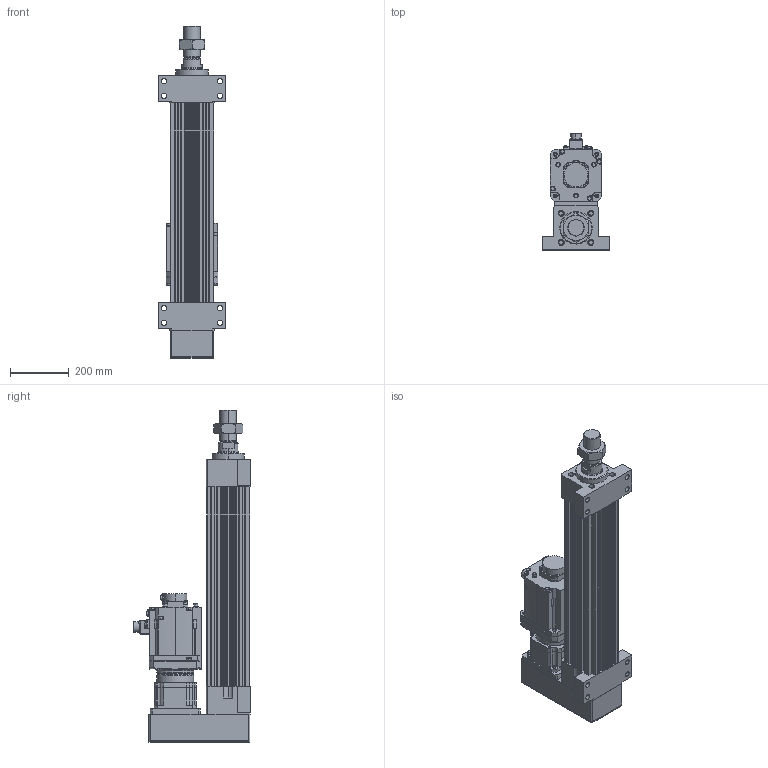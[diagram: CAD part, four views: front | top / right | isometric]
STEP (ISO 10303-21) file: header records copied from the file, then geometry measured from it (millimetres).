
FILE_DESCRIPTION (( 'STEP AP203' ), '1' );
FILE_NAME ('HES150NS(HS)-P400-W050G00-M-FFB.STEP', '2026-06-10T06:37:23', ( 'tms' ), ( '' ), 'SwSTEP 2.0', 'SolidWorks 2013', '' );
FILE_SCHEMA (( 'CONFIG_CONTROL_DESIGN' ));
Length unit declared in the file: millimetre
Products named in the file (9): HG-SR502B; M56X2.0P; HES150-FFB-400; AB1422; HES150-P-G142; HES150-M-ROD-400; AB1423; AB1421; HES150NS(HS)-P400-W050G00-M-FFB
Assembly tree (8 placements, depth 2):
  HES150NS(HS)-P400-W050G00-M-FFB
    HES150-FFB-400
    HES150-M-ROD-400
    M56X2.0P
    HES150-P-G142
    HG-SR502B
    AB1421
    AB1422
    AB1423
Bounding box: 230 x 395.85 x 1126 mm (x, y, z)
Volume: 20164139 mm3; surface area: 2045509.8 mm2
Topology: 5 solids, 19 shells, 1502 faces, 3922 edges, 2558 vertices
Faces by surface type: cylinder 698, plane 590, cone 132, bspline 76, torus 6
Entity records: 55282 total; most frequent: CARTESIAN_POINT 16792, DIRECTION 8058, ORIENTED_EDGE 7770, EDGE_CURVE 3907, AXIS2_PLACEMENT_3D 3049, VERTEX_POINT 2558, VECTOR 1960, LINE 1960
